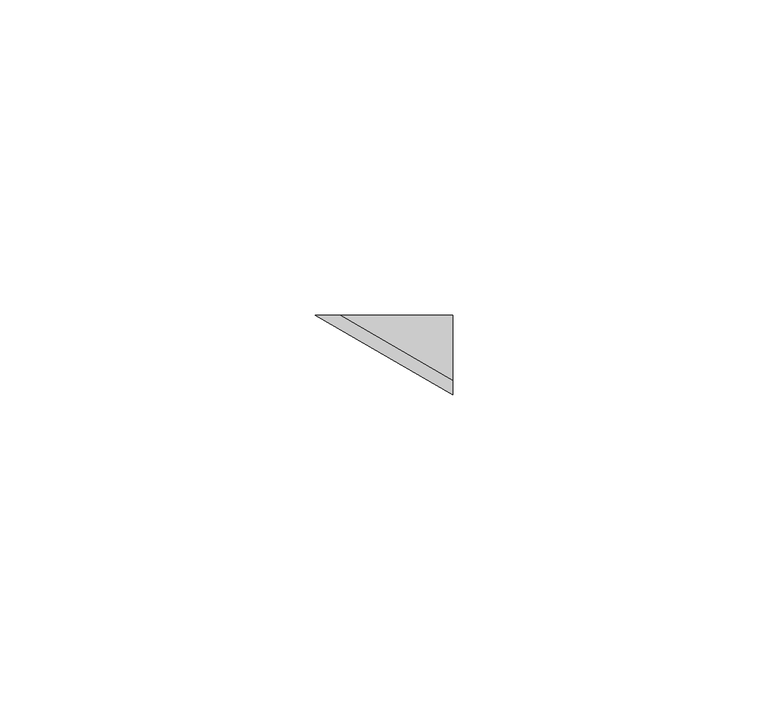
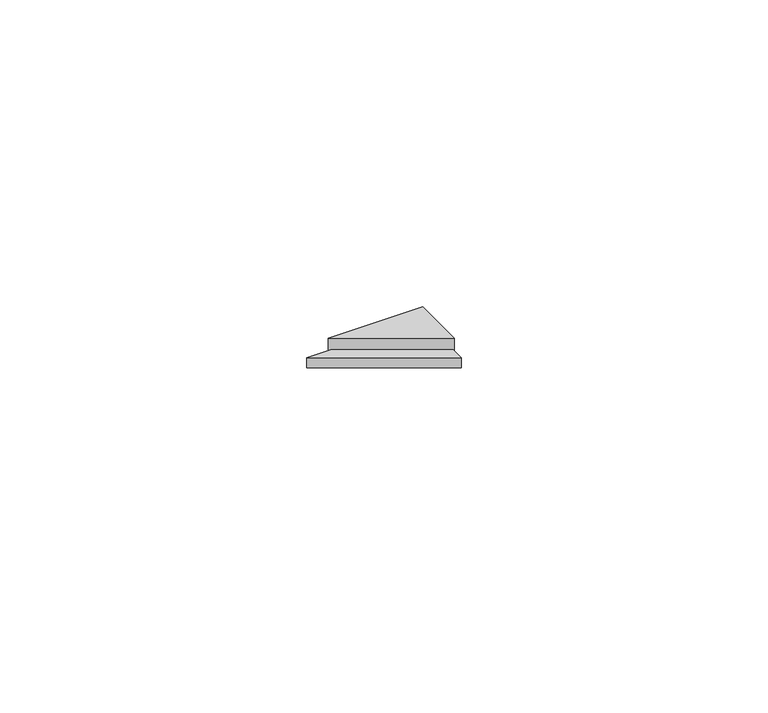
"""IFC4 building model written with IfcOpenShell, lengths in millimetres: proxy geometry, PBSHOP - CUBICA ARGENTO 4,8X8,3 : CUBICA ARGENTO - POSIÇÃO 01."""

import ifcopenshell
import ifcopenshell.guid

model = None  # the IFC model being written
_history = None  # IfcOwnerHistory: only IFC2X3 demands one
_inside = {}  # id of a spatial element -> (the spatial element, [elements in it])
_under = {}  # id of a project, library or spatial element -> (it, [spatial elements below it])
_declared = {}  # id of a project -> (the project, [libraries it declares])
_typed = {}  # id of a type object -> (the type object, [elements of that type])
_made_of = {}  # id of a material, layer set ... -> (it, [elements and type objects made of it])


def new_model(schema):
    """Start an empty IFC model of exactly this schema.

    Asked for "IFC4X3", IfcOpenShell would pick the latest addendum, in which some entities
    have other attributes; the version numbers below select the first issue.
    IFC2X3 requires an IfcOwnerHistory on every rooted entity: one is made here for all.
    """
    global model, _history
    if schema == "IFC4X3":
        model = ifcopenshell.file(schema_version=(4, 3, 0, 0))
    else:
        model = ifcopenshell.file(schema=schema)
    _inside.clear()
    _under.clear()
    _declared.clear()
    _typed.clear()
    _made_of.clear()
    _history = None
    if model.schema == "IFC2X3":
        org = make("IfcOrganization", Name="unknown")
        user = make(
            "IfcPersonAndOrganization",
            ThePerson=make("IfcPerson", FamilyName="unknown"),
            TheOrganization=org,
        )
        app = make(
            "IfcApplication",
            ApplicationDeveloper=org,
            Version="unknown",
            ApplicationFullName="unknown",
            ApplicationIdentifier="unknown",
        )
        _history = make(
            "IfcOwnerHistory",
            OwningUser=user,
            OwningApplication=app,
            ChangeAction="ADDED",
            CreationDate=0,
        )
    return model


def make(cls, **values):
    """One entity of the class cls with the attributes given. An attribute that is None is left unset."""
    return model.create_entity(
        cls, **{name: value for name, value in values.items() if value is not None}
    )


def rooted(cls, **values):
    """An entity with a GlobalId (a new one), such as an element, a storey or a relation."""
    return make(cls, GlobalId=ifcopenshell.guid.new(), OwnerHistory=_history, **values)


def si_unit(unit_type, name, prefix=None):
    """IfcSIUnit, for example si_unit("LENGTHUNIT", "METRE", prefix="MILLI")."""
    return make("IfcSIUnit", UnitType=unit_type, Prefix=prefix, Name=name)


def assignment(units):
    """IfcUnitAssignment: the units of a project."""
    return None if units is None else make("IfcUnitAssignment", Units=units)


def point(xyz):
    """IfcCartesianPoint."""
    return None if xyz is None else make("IfcCartesianPoint", Coordinates=xyz)


def direction(xyz):
    """IfcDirection."""
    return None if xyz is None else make("IfcDirection", DirectionRatios=xyz)


def frame(location, z_axis=None, x_axis=None):
    """IfcAxis2Placement3D, a coordinate frame: its origin and axes. An axis left out is left unset."""
    return make(
        "IfcAxis2Placement3D",
        Location=point(location),
        Axis=direction(z_axis),
        RefDirection=direction(x_axis),
    )


def origin():
    """The frame at (0, 0, 0) with its axes left unset."""
    return frame((0.0, 0.0, 0.0))


def origin_with_axes():
    """The frame at (0, 0, 0) with the z axis (0, 0, 1) and the x axis (1, 0, 0) written out."""
    return frame((0.0, 0.0, 0.0), z_axis=(0.0, 0.0, 1.0), x_axis=(1.0, 0.0, 0.0))


def place(relative_to, where):
    """IfcLocalPlacement: puts the frame where relative to a parent placement (None: the world)."""
    return make(
        "IfcLocalPlacement", PlacementRelTo=relative_to, RelativePlacement=where
    )


def context(
    kind, dimensions, precision=None, world=None, true_north=None, identifier=None
):
    """IfcGeometricRepresentationContext, for example the 3D "Model" context."""
    return make(
        "IfcGeometricRepresentationContext",
        ContextIdentifier=identifier,
        ContextType=kind,
        CoordinateSpaceDimension=dimensions,
        Precision=precision,
        WorldCoordinateSystem=world,
        TrueNorth=true_north,
    )


def project(units=None, contexts=None):
    """IfcProject with its units and contexts."""
    return rooted(
        "IfcProject",
        Name="project",
        RepresentationContexts=contexts,
        UnitsInContext=assignment(units),
    )


def spatial(cls, under=None, at=None, **own):
    """A site, building, storey or space (cls), placed at a placement, below another one or the project."""
    s = rooted(cls, ObjectPlacement=at, **own)
    if under is not None:
        _under.setdefault(under.id(), (under, []))[1].append(s)
    return s


def polyline(points):
    """IfcPolyline through the points."""
    return make("IfcPolyline", Points=[point(p) for p in points])


def outline(outer, holes=None, kind="AREA"):
    """IfcArbitraryClosedProfileDef: a profile drawn as a closed curve; with holes, ...WithVoids."""
    if holes is None:
        return make("IfcArbitraryClosedProfileDef", ProfileType=kind, OuterCurve=outer)
    return make(
        "IfcArbitraryProfileDefWithVoids",
        ProfileType=kind,
        OuterCurve=outer,
        InnerCurves=holes,
    )


def extrude(swept, where, along, depth):
    """IfcExtrudedAreaSolid: the profile swept, set in the frame where, extruded along a direction by depth."""
    return make(
        "IfcExtrudedAreaSolid",
        SweptArea=swept,
        Position=where,
        ExtrudedDirection=direction(along),
        Depth=depth,
    )


def shape(context_of_items, identifier, shape_type, items):
    """IfcShapeRepresentation: the items that make up one representation, for example the "Body"."""
    return make(
        "IfcShapeRepresentation",
        ContextOfItems=context_of_items,
        RepresentationIdentifier=identifier,
        RepresentationType=shape_type,
        Items=items,
    )


def source(mapping_origin, context_of_items, identifier, shape_type, items):
    """IfcRepresentationMap: a shape defined once, which mapped items show again and again."""
    return make(
        "IfcRepresentationMap",
        MappingOrigin=mapping_origin,
        MappedRepresentation=shape(context_of_items, identifier, shape_type, items),
    )


def transform(
    local_origin,
    x_axis=None,
    y_axis=None,
    z_axis=None,
    scale=None,
    scale2=None,
    scale3=None,
    uniform=True,
):
    """IfcCartesianTransformationOperator3D, or its non-uniform kind. x_axis, y_axis, z_axis: its Axis1, 2, 3."""
    if uniform:
        return make(
            "IfcCartesianTransformationOperator3D",
            Axis1=direction(x_axis),
            Axis2=direction(y_axis),
            LocalOrigin=point(local_origin),
            Scale=scale,
            Axis3=direction(z_axis),
        )
    return make(
        "IfcCartesianTransformationOperator3DnonUniform",
        Axis1=direction(x_axis),
        Axis2=direction(y_axis),
        LocalOrigin=point(local_origin),
        Scale=scale,
        Axis3=direction(z_axis),
        Scale2=scale2,
        Scale3=scale3,
    )


def mapped(mapping_source, mapping_target):
    """IfcMappedItem: shows the shape of a source again, moved by a transform."""
    return make(
        "IfcMappedItem", MappingSource=mapping_source, MappingTarget=mapping_target
    )


def made_of(thing, what):
    """Note that an element or type object is made of a material, layer set ...; save() writes the relation."""
    if what is not None:
        _made_of.setdefault(what.id(), (what, []))[1].append(thing)
    return thing


def element(
    cls,
    number,
    at=None,
    inside=None,
    cuts=None,
    type_object=None,
    material=None,
    context=None,
    identifier="Body",
    shape_type=None,
    held_by="IfcProductDefinitionShape",
    body=None,
    shapes=None,
    **own,
):
    """One element of the class cls, such as IfcWall. Its Tag is "e" and its number.

    at: its placement. inside: the storey or other place that contains it. cuts: it is an
    opening in that element (IfcRelVoidsElement). A single representation is given by context,
    identifier, shape_type and body (its items); several are given by shapes. held_by: the class
    of the entity that holds the representations. save() writes the other relations.
    """
    e = rooted(cls, Tag="e%d" % number, ObjectPlacement=at, **own)
    if body is not None:
        shapes = [shape(context, identifier, shape_type, body)]
    if shapes is not None:
        e.Representation = make(held_by, Representations=shapes)
    if inside is not None:
        _inside.setdefault(inside.id(), (inside, []))[1].append(e)
    if cuts is not None:
        rooted(
            "IfcRelVoidsElement", RelatingBuildingElement=cuts, RelatedOpeningElement=e
        )
    if type_object is not None:
        _typed.setdefault(type_object.id(), (type_object, []))[1].append(e)
    return made_of(e, material)


def aggregate(whole, parts):
    """IfcRelAggregates: a whole, such as a stair, and the parts it consists of."""
    return rooted("IfcRelAggregates", RelatingObject=whole, RelatedObjects=parts)


def save(model, path):
    """Write the relations noted so far, then the file.

    IfcRelAggregates (storeys below a building ...), IfcRelContainedInSpatialStructure (elements
    in a storey), IfcRelDefinesByType, IfcRelAssociatesMaterial and IfcRelDeclares: one each for
    every whole, place, type object, material and project.
    """
    for whole, parts in _under.values():
        aggregate(whole, parts)
    for where, things in _inside.values():
        rooted(
            "IfcRelContainedInSpatialStructure",
            RelatedElements=things,
            RelatingStructure=where,
        )
    for kind, things in _typed.values():
        rooted("IfcRelDefinesByType", RelatedObjects=things, RelatingType=kind)
    for what, things in _made_of.values():
        rooted("IfcRelAssociatesMaterial", RelatedObjects=things, RelatingMaterial=what)
    for by, libraries in _declared.values():
        rooted("IfcRelDeclares", RelatingContext=by, RelatedDefinitions=libraries)
    model.write(path)


def generic_models_b212a934(model_context):
    return source(origin(), model_context, "Body", "SweptSolid", [
        extrude(outline(polyline([(16.3119765, -35.7271251), (-5.4544827, -23.160254), (16.3119765, -23.160254), (16.3119765, -35.7271251)])), origin_with_axes(), (0.0, 0.0, 1.0), 2.0),
        extrude(outline(polyline([(16.3119765, -33.417724), (-1.4544827, -23.160254), (16.3119765, -23.160254), (16.3119765, -33.417724)])), frame((0.0, 0.0, 2.0), z_axis=(0.0, 0.0, 1.0), x_axis=(1.0, 0.0, 0.0)), (0.0, 0.0, 1.0), 2.5),
    ])


if __name__ == "__main__":
    model = new_model("IFC4")
    model_context = context("Model", 3, world=origin())
    ifc_project = project(units=[si_unit("LENGTHUNIT", "METRE", prefix="MILLI")], contexts=[model_context])
    site = spatial("IfcSite", under=ifc_project)
    building = spatial("IfcBuilding", under=site)
    placement = place(None, origin())
    generic_models_shape = generic_models_b212a934(model_context)
    element("IfcBuildingElementProxy", 1, Name="PBSHOP - CUBICA ARGENTO 4,8X8,3 : CUBICA ARGENTO - POSIÇÃO 01", ObjectType="PBSHOP - CUBICA ARGENTO 4,8X8,3 : CUBICA ARGENTO - POSIÇÃO 01", at=placement, inside=building, context=model_context, shape_type="MappedRepresentation", body=[
        mapped(generic_models_shape, transform((0.0, 0.0, 0.0), x_axis=(1.0, 0.0, 0.0), y_axis=(0.0, 1.0, 0.0), z_axis=(0.0, 0.0, 1.0))),
    ])
    save(model, "model.ifc")
